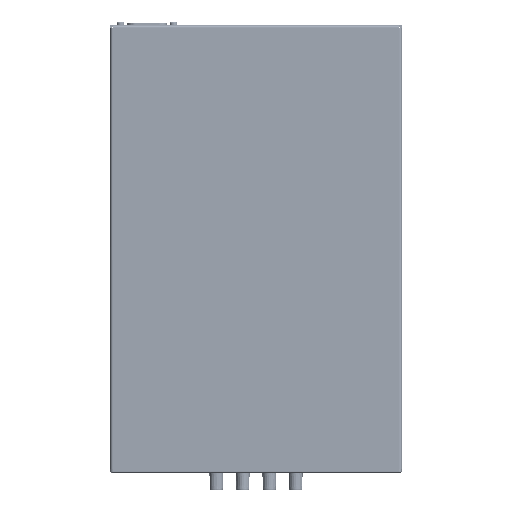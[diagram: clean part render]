
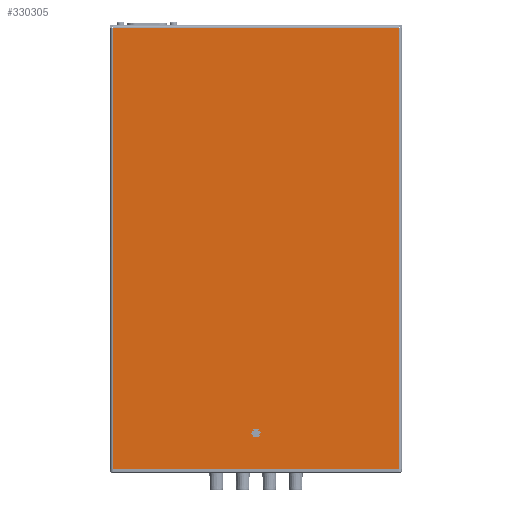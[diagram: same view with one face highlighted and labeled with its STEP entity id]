
A CAD part, front view. The second image highlights one B-rep face of the part: STEP entity #330305.
In plain terms, the highlighted planar face has unit normal (0, -1, 0).
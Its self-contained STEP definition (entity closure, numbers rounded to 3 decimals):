
#2138 = DIRECTION ( 'NONE',  ( 1., 0., 0. ) ) ;
#4192 = CARTESIAN_POINT ( 'NONE',  ( -110.15, 0., -335.2 ) ) ;
#6420 = FACE_BOUND ( 'NONE', #215456, .T. ) ;
#20169 = CARTESIAN_POINT ( 'NONE',  ( 108.15, 0., -2. ) ) ;
#32614 = EDGE_CURVE ( 'NONE', #282773, #207529, #123980, .T. ) ;
#36357 = ORIENTED_EDGE ( 'NONE', *, *, #110697, .T. ) ;
#38957 = DIRECTION ( 'NONE',  ( -1., 0., 0. ) ) ;
#43186 = CARTESIAN_POINT ( 'NONE',  ( -108.15, 0., -335.2 ) ) ;
#43219 = ORIENTED_EDGE ( 'NONE', *, *, #372755, .T. ) ;
#56082 = DIRECTION ( 'NONE',  ( 0., -1., 0. ) ) ;
#58226 = DIRECTION ( 'NONE',  ( -1., 0., 0. ) ) ;
#61953 = DIRECTION ( 'NONE',  ( -1., 0., 0. ) ) ;
#69851 = ORIENTED_EDGE ( 'NONE', *, *, #177524, .T. ) ;
#71992 = AXIS2_PLACEMENT_3D ( 'NONE', #228244, #56082, #300784 ) ;
#73001 = EDGE_CURVE ( 'NONE', #312029, #323049, #121979, .T. ) ;
#84894 = VECTOR ( 'NONE', #58226, 1000. ) ;
#88231 = VERTEX_POINT ( 'NONE', #348702 ) ;
#93656 = CIRCLE ( 'NONE', #71992, 1. ) ;
#96780 = CIRCLE ( 'NONE', #350084, 2.7 ) ;
#106956 = DIRECTION ( 'NONE',  ( 0., 0., 1. ) ) ;
#110697 = EDGE_CURVE ( 'NONE', #349371, #299245, #93656, .T. ) ;
#112262 = AXIS2_PLACEMENT_3D ( 'NONE', #419667, #211147, #38957 ) ;
#113449 = LINE ( 'NONE', #43186, #355175 ) ;
#117530 = CARTESIAN_POINT ( 'NONE',  ( -107.887, 0., -335.2 ) ) ;
#121979 = CIRCLE ( 'NONE', #331665, 1. ) ;
#123980 = LINE ( 'NONE', #305154, #84894 ) ;
#132126 = DIRECTION ( 'NONE',  ( 0., 1., 0. ) ) ;
#132768 = DIRECTION ( 'NONE',  ( 0., -1., 0. ) ) ;
#135033 = CARTESIAN_POINT ( 'NONE',  ( 107.887, 0., -334.2 ) ) ;
#159890 = ORIENTED_EDGE ( 'NONE', *, *, #367842, .T. ) ;
#163911 = ORIENTED_EDGE ( 'NONE', *, *, #276727, .F. ) ;
#174182 = FACE_OUTER_BOUND ( 'NONE', #333244, .T. ) ;
#177524 = EDGE_CURVE ( 'NONE', #323049, #282773, #417417, .T. ) ;
#192249 = CARTESIAN_POINT ( 'NONE',  ( -108.15, 0., -2. ) ) ;
#195723 = CARTESIAN_POINT ( 'NONE',  ( 108.15, 0., -335.165 ) ) ;
#207529 = VERTEX_POINT ( 'NONE', #192249 ) ;
#210397 = CARTESIAN_POINT ( 'NONE',  ( 107.887, 0., -335.2 ) ) ;
#211147 = DIRECTION ( 'NONE',  ( 0., 1., 0. ) ) ;
#215456 = EDGE_LOOP ( 'NONE', ( #159890, #302894 ) ) ;
#215562 = CARTESIAN_POINT ( 'NONE',  ( 108.15, 0., -335.2 ) ) ;
#225400 = CARTESIAN_POINT ( 'NONE',  ( 2.7, 0., -308.2 ) ) ;
#228244 = CARTESIAN_POINT ( 'NONE',  ( -107.887, 0., -334.2 ) ) ;
#231471 = VECTOR ( 'NONE', #2138, 1000. ) ;
#234117 = CARTESIAN_POINT ( 'NONE',  ( 0., 0., -308.2 ) ) ;
#261943 = CARTESIAN_POINT ( 'NONE',  ( -108.15, 0., -335.165 ) ) ;
#265186 = EDGE_CURVE ( 'NONE', #329770, #88231, #96780, .T. ) ;
#268568 = ORIENTED_EDGE ( 'NONE', *, *, #32614, .T. ) ;
#269553 = ORIENTED_EDGE ( 'NONE', *, *, #73001, .T. ) ;
#274186 = LINE ( 'NONE', #419108, #231471 ) ;
#276727 = EDGE_CURVE ( 'NONE', #349371, #207529, #113449, .T. ) ;
#282773 = VERTEX_POINT ( 'NONE', #20169 ) ;
#287413 = PLANE ( 'NONE',  #321077 ) ;
#293069 = CIRCLE ( 'NONE', #112262, 2.7 ) ;
#299245 = VERTEX_POINT ( 'NONE', #117530 ) ;
#300109 = VECTOR ( 'NONE', #106956, 1000. ) ;
#300784 = DIRECTION ( 'NONE',  ( 1., 0., 0. ) ) ;
#302894 = ORIENTED_EDGE ( 'NONE', *, *, #265186, .T. ) ;
#305154 = CARTESIAN_POINT ( 'NONE',  ( 108.15, 0., -2. ) ) ;
#312029 = VERTEX_POINT ( 'NONE', #210397 ) ;
#321077 = AXIS2_PLACEMENT_3D ( 'NONE', #4192, #348715, #425639 ) ;
#323049 = VERTEX_POINT ( 'NONE', #195723 ) ;
#329770 = VERTEX_POINT ( 'NONE', #225400 ) ;
#330305 = ADVANCED_FACE ( 'NONE', ( #6420, #174182 ), #287413, .T. ) ;
#331665 = AXIS2_PLACEMENT_3D ( 'NONE', #135033, #132768, #407058 ) ;
#333244 = EDGE_LOOP ( 'NONE', ( #43219, #269553, #69851, #268568, #163911, #36357 ) ) ;
#348702 = CARTESIAN_POINT ( 'NONE',  ( -2.7, 0., -308.2 ) ) ;
#348715 = DIRECTION ( 'NONE',  ( 0., -1., 0. ) ) ;
#349371 = VERTEX_POINT ( 'NONE', #261943 ) ;
#350084 = AXIS2_PLACEMENT_3D ( 'NONE', #234117, #132126, #61953 ) ;
#355175 = VECTOR ( 'NONE', #392108, 1000. ) ;
#367842 = EDGE_CURVE ( 'NONE', #88231, #329770, #293069, .T. ) ;
#372755 = EDGE_CURVE ( 'NONE', #299245, #312029, #274186, .T. ) ;
#392108 = DIRECTION ( 'NONE',  ( 0., 0., 1. ) ) ;
#407058 = DIRECTION ( 'NONE',  ( 1., 0., 0. ) ) ;
#417417 = LINE ( 'NONE', #215562, #300109 ) ;
#419108 = CARTESIAN_POINT ( 'NONE',  ( -110.15, 0., -335.2 ) ) ;
#419667 = CARTESIAN_POINT ( 'NONE',  ( 0., 0., -308.2 ) ) ;
#425639 = DIRECTION ( 'NONE',  ( 1., 0., 0. ) ) ;
